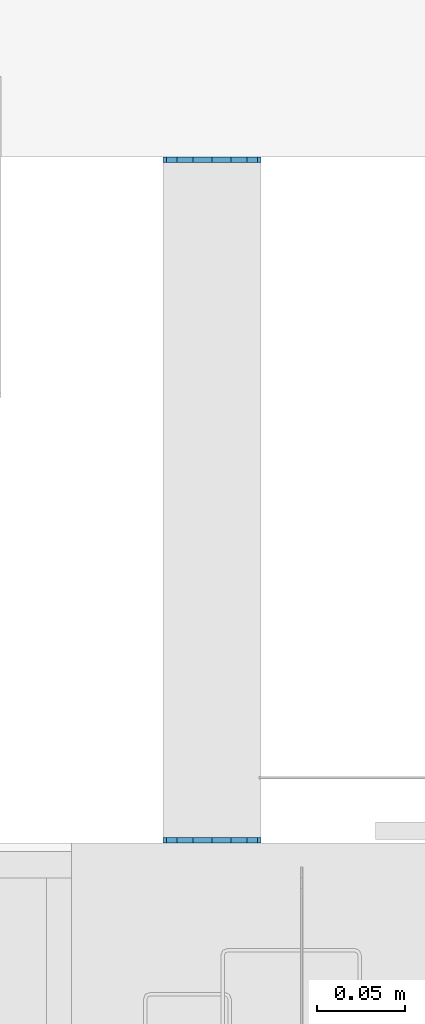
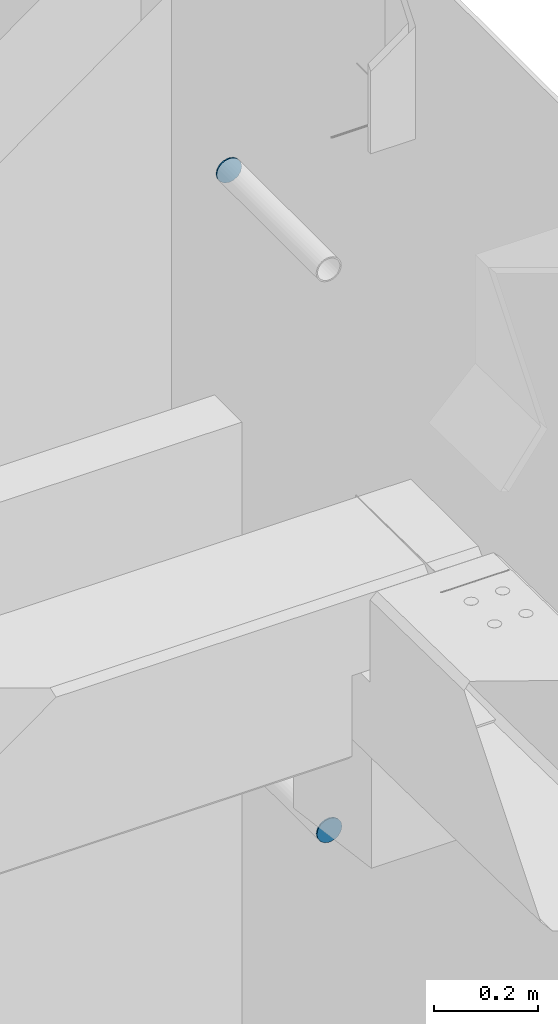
# One storey, part 88 of 186: 2 beams.
"""IFC4X3_ADD2 building model written with IfcOpenShell, lengths in millimetres."""

from ifc_helpers import new_model, si_unit, direction, frame, origin_with_axes, place, context, subcontext, project, spatial, indexed_curve, outline, extrude, material, element, save


model = new_model("IFC4X3_ADD2")

# Units and contexts
model_context = context("Model", 3, precision=1e-05, world=origin_with_axes(), true_north=direction((0.0, 1.0)))
body_context = subcontext(model_context, "Body", "Model", "MODEL_VIEW")
ifc_project = project(units=[si_unit("LENGTHUNIT", "METRE", prefix="MILLI"), si_unit("AREAUNIT", "SQUARE_METRE"), si_unit("VOLUMEUNIT", "CUBIC_METRE"), si_unit("PLANEANGLEUNIT", "RADIAN"), si_unit("TIMEUNIT", "SECOND"), si_unit("MASSUNIT", "GRAM")], contexts=[model_context])

# Site, building, storey
site_placement = place(None, origin_with_axes())
site = spatial("IfcSite", under=ifc_project, at=site_placement, Name="Site", CompositionType="ELEMENT")
building_placement = place(site_placement, origin_with_axes())
building = spatial("IfcBuilding", under=site, at=building_placement, Name="IFC Building Story")
storey_placement = place(building_placement, frame((0.0, 0.0, 4370.0), z_axis=(0.0, 0.0, 1.0), x_axis=(1.0, 0.0, 0.0)))
storey = spatial("IfcBuildingStorey", under=building, at=storey_placement, Name="ETAGE 10 (1)", Elevation=4370.0)

# Beams
ifc_material = material(Name="STEEL/Accessory 22919")
for number, where, z_axis, x_axis, name in (
    (1, (48311.18800000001, 3.0, 2369.626000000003), (0.0, -1.0, 0.0), (-0.1950903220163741, 0.0, 0.9807852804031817), "TA4"),
    (2, (48311.18800000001, 390.0, 3689.999999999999), (0.0, -1.0, 0.0), (0.5555702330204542, 0.0, -0.831469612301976), "TA4"),
):
    element("IfcBeam", number, at=place(storey_placement, frame(where, z_axis=z_axis, x_axis=x_axis)), inside=storey, material=ifc_material, Name=name, ObjectType="D56", context=body_context, shape_type="SweptSolid", body=[
        extrude(outline(indexed_curve([(23.28114914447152, 15.55596652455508), (27.46198785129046, 5.462529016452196), (27.46198785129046, -5.462529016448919), (23.28114914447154, -15.55596652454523), (15.55596652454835, -23.28114914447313), (5.462529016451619, -27.46198785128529), (-5.462529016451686, -27.46198785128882), (-15.55596652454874, -23.28114914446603), (-23.2811491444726, -15.55596652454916), (-27.46198785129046, -5.462529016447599), (-27.46198785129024, 5.462529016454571), (-23.28114914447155, 15.55596652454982), (-15.55596652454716, 23.28114914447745), (-5.462529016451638, 27.46198785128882), (5.462529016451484, 27.46198785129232), (15.55596652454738, 23.28114914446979), (23.28114914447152, 15.55596652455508)])), origin_with_axes(), (0.0, 0.0, 1.0), 3.0),
    ])

save(model, "model.ifc")
